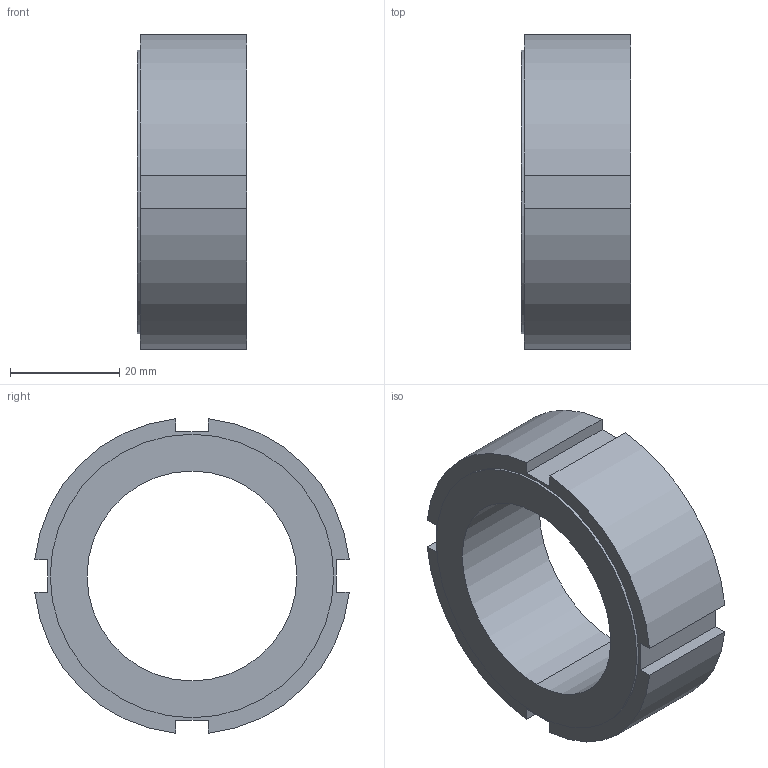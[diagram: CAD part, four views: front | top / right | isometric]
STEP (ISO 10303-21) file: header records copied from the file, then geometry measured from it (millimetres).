
FILE_DESCRIPTION (( 'STEP AP203' ), '1' );
FILE_NAME ('HIA40.STEP', '2002-08-15T11:36:38', ( '.' ), ( '.' ), 'SwSTEP 2.0', 'SolidWorks 2001340', '' );
FILE_SCHEMA (( 'CONFIG_CONTROL_DESIGN' ));
Length unit declared in the file: millimetre
Products named in the file (1): HIA40
Bounding box: 20 x 57.69 x 57.69 mm (x, y, z)
Volume: 28153.5 mm3; surface area: 9257.1 mm2
Topology: 1 solids, 1 shells, 23 faces, 60 edges, 40 vertices
Faces by surface type: plane 15, cylinder 8
Entity records: 791 total; most frequent: CARTESIAN_POINT 124, DIRECTION 124, ORIENTED_EDGE 120, EDGE_CURVE 60, LINE 44, VECTOR 44, VERTEX_POINT 40, AXIS2_PLACEMENT_3D 40
